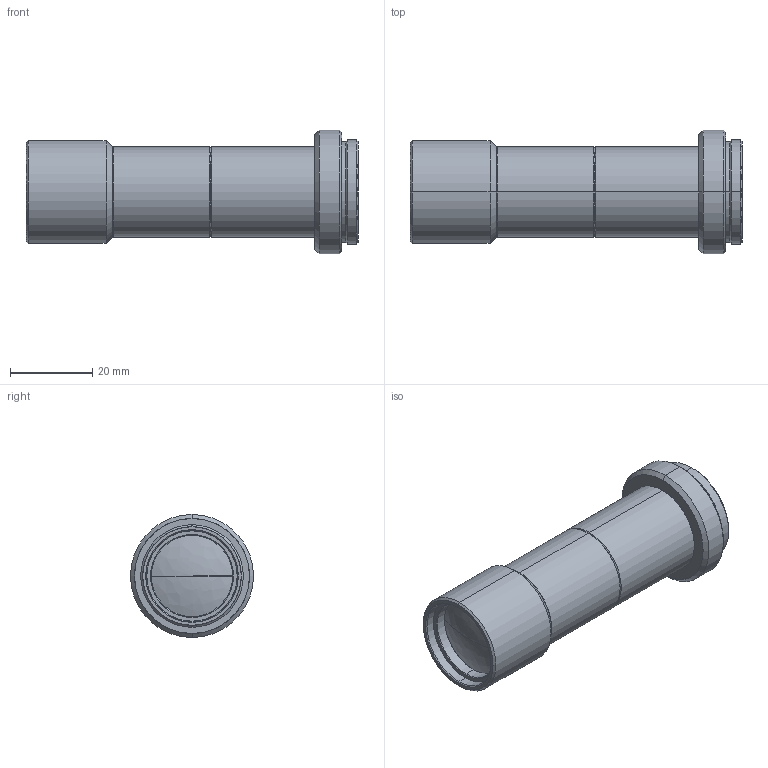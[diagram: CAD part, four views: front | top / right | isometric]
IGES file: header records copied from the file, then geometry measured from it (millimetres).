
Start section: SolidWorks IGES file using analytic representation for surfaces
Bounding box: 80.9 x 30 x 30 mm (x, y, z)
Surface area: 9638.5 mm2 (no closed solid volume)
Topology: 0 solids, 0 shells, 93 faces, 1104 edges, 1102 vertices
Faces by surface type: revolution 82, bspline 11
